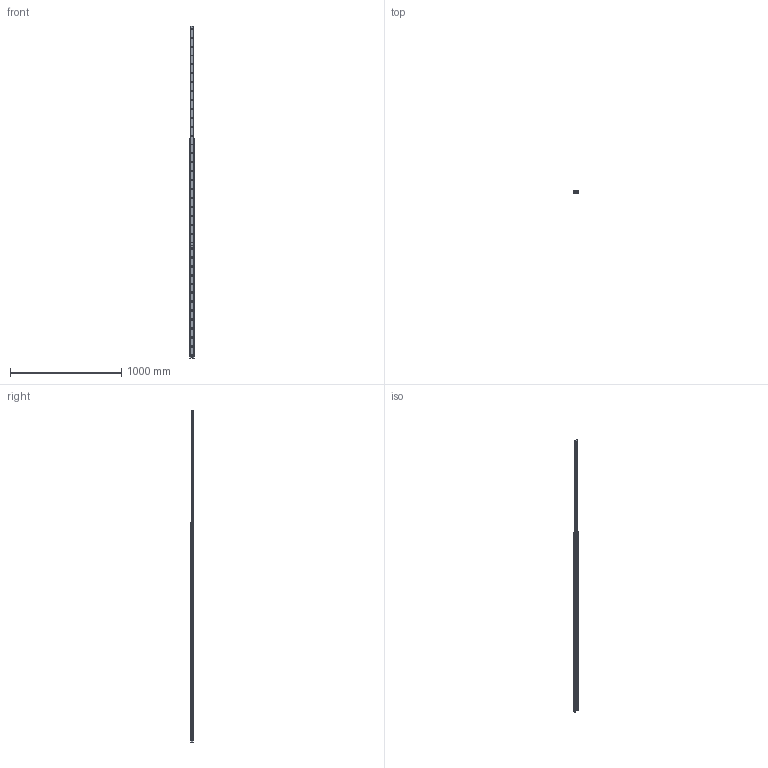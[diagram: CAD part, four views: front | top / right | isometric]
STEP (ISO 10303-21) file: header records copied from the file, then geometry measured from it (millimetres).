
FILE_DESCRIPTION(('STEP AP214'),'1');
FILE_NAME('rail_asn43-1970_01.stp','2017-06-06T10:17:55',('TraceParts'),('TraceParts S.A.'),'Spatial InterOp 3D',' ',' ');
FILE_SCHEMA(('automotive_design'));
Length unit declared in the file: millimetre
Products named in the file (2): rail_asn43-1970_01_1; rail_asn43-1970_01_2
Bounding box: 43 x 22.01 x 2983 mm (x, y, z)
Volume: 1198985.3 mm3; surface area: 463097.9 mm2
Topology: 2 solids, 2 shells, 327 faces, 804 edges, 486 vertices
Faces by surface type: cone 150, cylinder 131, plane 46
Entity records: 9880 total; most frequent: DIRECTION 1874, CARTESIAN_POINT 1619, ORIENTED_EDGE 1608, EDGE_CURVE 804, AXIS2_PLACEMENT_3D 741, VERTEX_POINT 486, EDGE_LOOP 432, CIRCLE 412
